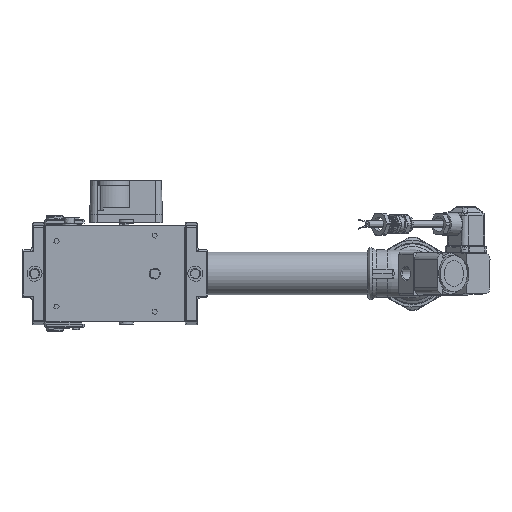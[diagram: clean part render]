
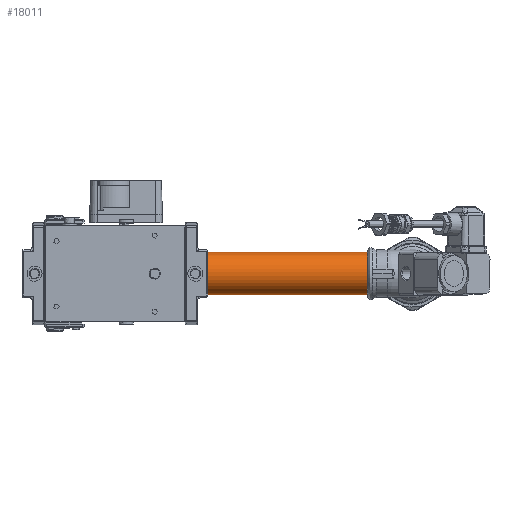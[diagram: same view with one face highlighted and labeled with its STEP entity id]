
A CAD part, front view. The second image highlights one B-rep face of the part: STEP entity #18011.
In plain terms, the highlighted cylindrical face has radius 21.2 mm (diameter 42.4 mm), a full revolution.
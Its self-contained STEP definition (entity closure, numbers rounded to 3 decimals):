
#18011 = ADVANCED_FACE ( 'NONE', ( #91842, #23294 ), #87688, .T. ) ;
#23294 = FACE_OUTER_BOUND ( 'NONE', #181316, .T. ) ;
#32657 = DIRECTION ( 'NONE',  ( 1., 0., 0. ) ) ;
#44109 = CARTESIAN_POINT ( 'NONE',  ( -199., 0., -41.78 ) ) ;
#44465 = CARTESIAN_POINT ( 'NONE',  ( -1., -21.086, -43.975 ) ) ;
#46457 = CARTESIAN_POINT ( 'NONE',  ( -200., 0., -41.78 ) ) ;
#47435 = AXIS2_PLACEMENT_3D ( 'NONE', #130290, #49065, #96458 ) ;
#49065 = DIRECTION ( 'NONE',  ( -1., 0., 0. ) ) ;
#57490 = CIRCLE ( 'NONE', #47435, 21.2 ) ;
#65436 = DIRECTION ( 'NONE',  ( 0., 0.995, 0.104 ) ) ;
#67052 = ORIENTED_EDGE ( 'NONE', *, *, #89774, .T. ) ;
#72543 = EDGE_CURVE ( 'NONE', #87790, #87790, #76061, .T. ) ;
#76061 = CIRCLE ( 'NONE', #200870, 21.2 ) ;
#87688 = CYLINDRICAL_SURFACE ( 'NONE', #166401, 21.2 ) ;
#87790 = VERTEX_POINT ( 'NONE', #104605 ) ;
#89774 = EDGE_CURVE ( 'NONE', #174296, #174296, #57490, .T. ) ;
#91599 = DIRECTION ( 'NONE',  ( 1., 0., 0. ) ) ;
#91842 = FACE_OUTER_BOUND ( 'NONE', #169993, .T. ) ;
#96458 = DIRECTION ( 'NONE',  ( 0., -0.995, -0.104 ) ) ;
#104605 = CARTESIAN_POINT ( 'NONE',  ( -199., -21.086, -43.975 ) ) ;
#108370 = ORIENTED_EDGE ( 'NONE', *, *, #72543, .T. ) ;
#126399 = DIRECTION ( 'NONE',  ( 0., -0.995, -0.104 ) ) ;
#130290 = CARTESIAN_POINT ( 'NONE',  ( -1., 0., -41.78 ) ) ;
#166401 = AXIS2_PLACEMENT_3D ( 'NONE', #46457, #32657, #65436 ) ;
#169993 = EDGE_LOOP ( 'NONE', ( #67052 ) ) ;
#174296 = VERTEX_POINT ( 'NONE', #44465 ) ;
#181316 = EDGE_LOOP ( 'NONE', ( #108370 ) ) ;
#200870 = AXIS2_PLACEMENT_3D ( 'NONE', #44109, #91599, #126399 ) ;
